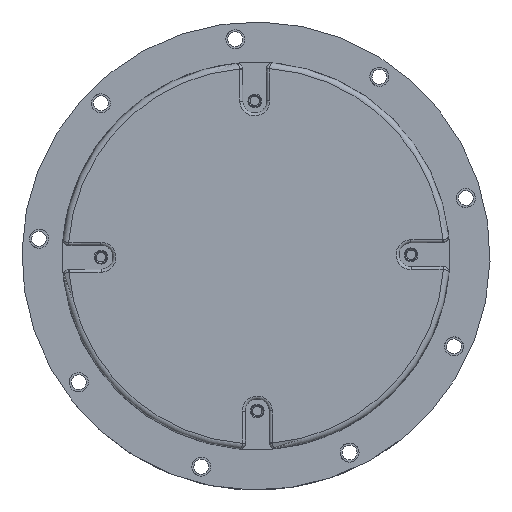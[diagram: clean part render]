
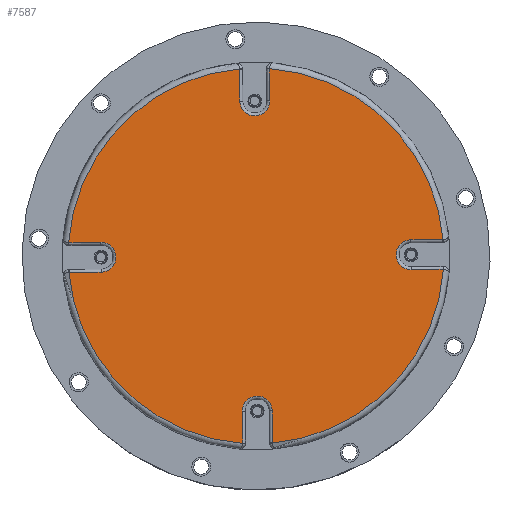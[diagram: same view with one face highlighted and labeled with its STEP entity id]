
A CAD part, left-side view. The second image highlights one B-rep face of the part: STEP entity #7587.
In plain terms, the highlighted planar face has unit normal (-1, 0, 0).
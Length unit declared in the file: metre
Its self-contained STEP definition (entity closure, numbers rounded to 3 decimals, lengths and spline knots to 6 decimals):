
#172=PLANE('',#8601);
#642=LINE('',#13291,#1048);
#648=LINE('',#13386,#1054);
#681=LINE('',#13601,#1087);
#689=LINE('',#13636,#1095);
#695=LINE('',#13818,#1101);
#704=LINE('',#13867,#1110);
#705=LINE('',#14032,#1111);
#714=LINE('',#14072,#1120);
#1048=VECTOR('',#10601,1.);
#1054=VECTOR('',#10637,1.);
#1087=VECTOR('',#10768,1.);
#1095=VECTOR('',#10810,1.);
#1101=VECTOR('',#10844,1.);
#1110=VECTOR('',#10895,1.);
#1111=VECTOR('',#10910,1.);
#1120=VECTOR('',#10957,1.);
#3058=ORIENTED_EDGE('',*,*,#4298,.T.);
#3059=ORIENTED_EDGE('',*,*,#4302,.T.);
#3060=ORIENTED_EDGE('',*,*,#4214,.T.);
#3061=ORIENTED_EDGE('',*,*,#4209,.F.);
#3062=ORIENTED_EDGE('',*,*,#4225,.T.);
#3063=ORIENTED_EDGE('',*,*,#4227,.F.);
#3064=ORIENTED_EDGE('',*,*,#4229,.T.);
#3065=ORIENTED_EDGE('',*,*,#4127,.T.);
#3066=ORIENTED_EDGE('',*,*,#4153,.T.);
#3067=ORIENTED_EDGE('',*,*,#4149,.F.);
#3068=ORIENTED_EDGE('',*,*,#4148,.T.);
#3069=ORIENTED_EDGE('',*,*,#4132,.F.);
#3070=ORIENTED_EDGE('',*,*,#4135,.T.);
#3071=ORIENTED_EDGE('',*,*,#4243,.T.);
#3072=ORIENTED_EDGE('',*,*,#4251,.T.);
#3073=ORIENTED_EDGE('',*,*,#4246,.F.);
#3074=ORIENTED_EDGE('',*,*,#4266,.T.);
#3075=ORIENTED_EDGE('',*,*,#4268,.F.);
#3076=ORIENTED_EDGE('',*,*,#4270,.T.);
#3077=ORIENTED_EDGE('',*,*,#4273,.T.);
#3078=ORIENTED_EDGE('',*,*,#4281,.T.);
#3079=ORIENTED_EDGE('',*,*,#4276,.F.);
#3080=ORIENTED_EDGE('',*,*,#4294,.T.);
#3081=ORIENTED_EDGE('',*,*,#4296,.F.);
#4127=EDGE_CURVE('',#4984,#4987,#5588,.T.);
#4132=EDGE_CURVE('',#4991,#4992,#642,.T.);
#4135=EDGE_CURVE('',#4991,#4993,#5593,.T.);
#4148=EDGE_CURVE('',#5001,#4992,#5599,.T.);
#4149=EDGE_CURVE('',#5001,#5002,#648,.T.);
#4153=EDGE_CURVE('',#4987,#5002,#5602,.T.);
#4209=EDGE_CURVE('',#5039,#5040,#681,.T.);
#4214=EDGE_CURVE('',#5038,#5040,#5628,.T.);
#4225=EDGE_CURVE('',#5039,#5047,#5633,.T.);
#4227=EDGE_CURVE('',#5048,#5047,#689,.T.);
#4229=EDGE_CURVE('',#5048,#4984,#5635,.T.);
#4243=EDGE_CURVE('',#4993,#5058,#5642,.T.);
#4246=EDGE_CURVE('',#5060,#5061,#695,.T.);
#4251=EDGE_CURVE('',#5058,#5061,#5647,.T.);
#4266=EDGE_CURVE('',#5060,#5071,#5654,.T.);
#4268=EDGE_CURVE('',#5072,#5071,#704,.T.);
#4270=EDGE_CURVE('',#5072,#5073,#5657,.T.);
#4273=EDGE_CURVE('',#5073,#5074,#5658,.T.);
#4276=EDGE_CURVE('',#5076,#5077,#705,.T.);
#4281=EDGE_CURVE('',#5074,#5077,#5663,.T.);
#4294=EDGE_CURVE('',#5076,#5086,#5669,.T.);
#4296=EDGE_CURVE('',#5087,#5086,#714,.T.);
#4298=EDGE_CURVE('',#5087,#5088,#5671,.T.);
#4302=EDGE_CURVE('',#5088,#5038,#5673,.T.);
#4984=VERTEX_POINT('',#13184);
#4987=VERTEX_POINT('',#13198);
#4991=VERTEX_POINT('',#13290);
#4992=VERTEX_POINT('',#13292);
#4993=VERTEX_POINT('',#13296);
#5001=VERTEX_POINT('',#13383);
#5002=VERTEX_POINT('',#13387);
#5038=VERTEX_POINT('',#13586);
#5039=VERTEX_POINT('',#13602);
#5040=VERTEX_POINT('',#13603);
#5047=VERTEX_POINT('',#13631);
#5048=VERTEX_POINT('',#13635);
#5058=VERTEX_POINT('',#13730);
#5060=VERTEX_POINT('',#13819);
#5061=VERTEX_POINT('',#13820);
#5071=VERTEX_POINT('',#13862);
#5072=VERTEX_POINT('',#13866);
#5073=VERTEX_POINT('',#13870);
#5074=VERTEX_POINT('',#13944);
#5076=VERTEX_POINT('',#14033);
#5077=VERTEX_POINT('',#14034);
#5086=VERTEX_POINT('',#14067);
#5087=VERTEX_POINT('',#14071);
#5088=VERTEX_POINT('',#14078);
#5588=CIRCLE('',#8449,0.0315);
#5593=CIRCLE('',#8456,0.0005);
#5599=CIRCLE('',#8466,0.0025);
#5602=CIRCLE('',#8471,0.0005);
#5628=CIRCLE('',#8521,0.0005);
#5633=CIRCLE('',#8531,0.0025);
#5635=CIRCLE('',#8535,0.0005);
#5642=CIRCLE('',#8545,0.0315);
#5647=CIRCLE('',#8552,0.0005);
#5654=CIRCLE('',#8566,0.0025);
#5657=CIRCLE('',#8571,0.0005);
#5658=CIRCLE('',#8573,0.0315);
#5663=CIRCLE('',#8580,0.0005);
#5669=CIRCLE('',#8592,0.0025);
#5671=CIRCLE('',#8596,0.0005);
#5673=CIRCLE('',#8600,0.0315);
#6285=EDGE_LOOP('',(#3058,#3059,#3060,#3061,#3062,#3063,#3064,#3065,#3066,
#3067,#3068,#3069,#3070,#3071,#3072,#3073,#3074,#3075,#3076,#3077,#3078,
#3079,#3080,#3081));
#6916=FACE_BOUND('',#6285,.T.);
#7587=ADVANCED_FACE('',(#6916),#172,.F.);
#8449=AXIS2_PLACEMENT_3D('',#13199,#10592,#10593);
#8456=AXIS2_PLACEMENT_3D('',#13298,#10608,#10609);
#8466=AXIS2_PLACEMENT_3D('',#13384,#10633,#10634);
#8471=AXIS2_PLACEMENT_3D('',#13393,#10645,#10646);
#8521=AXIS2_PLACEMENT_3D('',#13610,#10778,#10779);
#8531=AXIS2_PLACEMENT_3D('',#13632,#10804,#10805);
#8535=AXIS2_PLACEMENT_3D('',#13643,#10813,#10814);
#8545=AXIS2_PLACEMENT_3D('',#13731,#10838,#10839);
#8552=AXIS2_PLACEMENT_3D('',#13828,#10854,#10855);
#8566=AXIS2_PLACEMENT_3D('',#13863,#10889,#10890);
#8571=AXIS2_PLACEMENT_3D('',#13871,#10900,#10901);
#8573=AXIS2_PLACEMENT_3D('',#13945,#10904,#10905);
#8580=AXIS2_PLACEMENT_3D('',#14042,#10920,#10921);
#8592=AXIS2_PLACEMENT_3D('',#14068,#10951,#10952);
#8596=AXIS2_PLACEMENT_3D('',#14080,#10960,#10961);
#8600=AXIS2_PLACEMENT_3D('',#14148,#10968,#10969);
#8601=AXIS2_PLACEMENT_3D('',#14149,#10970,#10971);
#10592=DIRECTION('',(-1.,0.,0.));
#10593=DIRECTION('',(0.,-0.008,-1.));
#10601=DIRECTION('',(0.,-1.,0.008));
#10608=DIRECTION('',(-1.,0.,0.));
#10609=DIRECTION('',(0.,0.008,1.));
#10633=DIRECTION('',(1.,0.,0.));
#10634=DIRECTION('',(0.,0.008,1.));
#10637=DIRECTION('',(0.,1.,-0.008));
#10645=DIRECTION('',(-1.,0.,0.));
#10646=DIRECTION('',(0.,0.079,-0.997));
#10768=DIRECTION('',(0.,0.008,1.));
#10778=DIRECTION('',(-1.,0.,0.));
#10779=DIRECTION('',(0.,0.997,0.079));
#10804=DIRECTION('',(1.,0.,0.));
#10805=DIRECTION('',(0.,-1.,0.008));
#10810=DIRECTION('',(0.,-0.008,-1.));
#10813=DIRECTION('',(-1.,0.,0.));
#10814=DIRECTION('',(0.,-1.,0.008));
#10838=DIRECTION('',(-1.,0.,0.));
#10839=DIRECTION('',(0.,-0.008,-1.));
#10844=DIRECTION('',(0.,-0.008,-1.));
#10854=DIRECTION('',(-1.,0.,0.));
#10855=DIRECTION('',(0.,-0.997,-0.079));
#10889=DIRECTION('',(1.,0.,0.));
#10890=DIRECTION('',(0.,1.,-0.008));
#10895=DIRECTION('',(0.,0.008,1.));
#10900=DIRECTION('',(-1.,0.,0.));
#10901=DIRECTION('',(0.,1.,-0.008));
#10904=DIRECTION('',(-1.,0.,0.));
#10905=DIRECTION('',(0.,-0.087,-0.996));
#10910=DIRECTION('',(0.,-1.,0.008));
#10920=DIRECTION('',(-1.,0.,0.));
#10921=DIRECTION('',(0.,-0.079,0.997));
#10951=DIRECTION('',(1.,0.,0.));
#10952=DIRECTION('',(0.,-0.008,-1.));
#10957=DIRECTION('',(0.,1.,-0.008));
#10960=DIRECTION('',(-1.,0.,0.));
#10961=DIRECTION('',(0.,-0.008,-1.));
#10968=DIRECTION('',(-1.,0.,0.));
#10969=DIRECTION('',(0.,-0.996,0.087));
#10970=DIRECTION('',(1.,0.,0.));
#10971=DIRECTION('',(0.,0.008,1.));
#13184=CARTESIAN_POINT('',(-0.2405,-0.002248,0.09938));
#13198=CARTESIAN_POINT('',(-0.2405,0.02642,0.070252));
#13199=CARTESIAN_POINT('',(-0.2405,-0.005,0.068));
#13290=CARTESIAN_POINT('',(-0.2405,0.026336,0.065251));
#13291=CARTESIAN_POINT('',(-0.2405,-0.038068,0.065763));
#13292=CARTESIAN_POINT('',(-0.2405,0.020979,0.065293));
#13296=CARTESIAN_POINT('',(-0.2405,0.02638,0.065248));
#13298=CARTESIAN_POINT('',(-0.2405,0.026332,0.064751));
#13383=CARTESIAN_POINT('',(-0.2405,0.021019,0.070293));
#13384=CARTESIAN_POINT('',(-0.2405,0.020999,0.067793));
#13386=CARTESIAN_POINT('',(-0.2405,-0.030829,0.070706));
#13387=CARTESIAN_POINT('',(-0.2405,0.026376,0.070251));
#13393=CARTESIAN_POINT('',(-0.2405,0.02638,0.070751));
#13586=CARTESIAN_POINT('',(-0.2405,-0.007252,0.099419));
#13601=CARTESIAN_POINT('',(-0.2405,-0.007705,0.042162));
#13602=CARTESIAN_POINT('',(-0.2405,-0.007293,0.094019));
#13603=CARTESIAN_POINT('',(-0.2405,-0.00725,0.099376));
#13610=CARTESIAN_POINT('',(-0.2405,-0.00775,0.09938));
#13631=CARTESIAN_POINT('',(-0.2405,-0.002293,0.093979));
#13632=CARTESIAN_POINT('',(-0.2405,-0.004793,0.093999));
#13635=CARTESIAN_POINT('',(-0.2405,-0.002251,0.099336));
#13636=CARTESIAN_POINT('',(-0.2405,-0.002763,0.034934));
#13643=CARTESIAN_POINT('',(-0.2405,-0.001751,0.099332));
#13730=CARTESIAN_POINT('',(-0.2405,-0.002748,0.036581));
#13731=CARTESIAN_POINT('',(-0.2405,-0.005,0.068));
#13818=CARTESIAN_POINT('',(-0.2405,-0.002707,0.041981));
#13819=CARTESIAN_POINT('',(-0.2405,-0.002707,0.041981));
#13820=CARTESIAN_POINT('',(-0.2405,-0.002749,0.036624));
#13828=CARTESIAN_POINT('',(-0.2405,-0.002249,0.03662));
#13862=CARTESIAN_POINT('',(-0.2405,-0.007706,0.042021));
#13863=CARTESIAN_POINT('',(-0.2405,-0.005207,0.042001));
#13866=CARTESIAN_POINT('',(-0.2405,-0.007749,0.036664));
#13867=CARTESIAN_POINT('',(-0.2405,-0.007749,0.036664));
#13870=CARTESIAN_POINT('',(-0.2405,-0.007751,0.03662));
#13871=CARTESIAN_POINT('',(-0.2405,-0.008249,0.036668));
#13944=CARTESIAN_POINT('',(-0.2405,-0.036419,0.065748));
#13945=CARTESIAN_POINT('',(-0.2405,-0.005,0.068));
#14032=CARTESIAN_POINT('',(-0.2405,-0.031019,0.065707));
#14033=CARTESIAN_POINT('',(-0.2405,-0.031019,0.065707));
#14034=CARTESIAN_POINT('',(-0.2405,-0.036376,0.065749));
#14042=CARTESIAN_POINT('',(-0.2405,-0.036379,0.065249));
#14067=CARTESIAN_POINT('',(-0.2405,-0.030979,0.070707));
#14068=CARTESIAN_POINT('',(-0.2405,-0.030999,0.068207));
#14071=CARTESIAN_POINT('',(-0.2405,-0.036336,0.070749));
#14072=CARTESIAN_POINT('',(-0.2405,-0.036336,0.070749));
#14078=CARTESIAN_POINT('',(-0.2405,-0.036379,0.070752));
#14080=CARTESIAN_POINT('',(-0.2405,-0.036332,0.071249));
#14148=CARTESIAN_POINT('',(-0.2405,-0.005,0.068));
#14149=CARTESIAN_POINT('',(-0.2405,-0.005,0.068));
